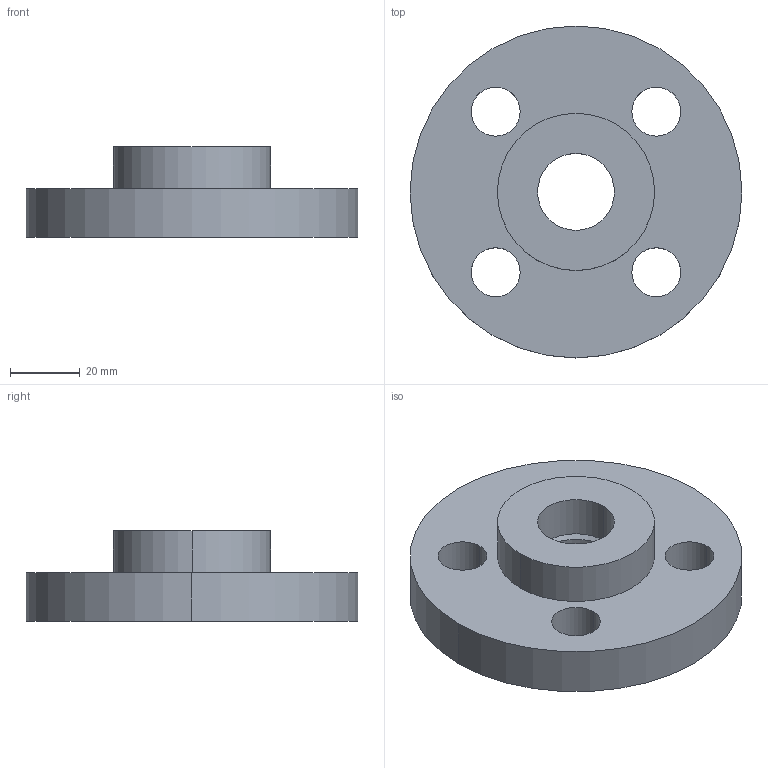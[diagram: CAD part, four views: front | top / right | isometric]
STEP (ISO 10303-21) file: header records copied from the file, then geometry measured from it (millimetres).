
FILE_DESCRIPTION (( 'STEP AP214' ), '1' );
FILE_NAME ('PN40 DN15 Type 02 in 32 - (Type A Face).STEP', '2018-12-29T15:10:35', ( '' ), ( '' ), 'SwSTEP 2.0', 'SolidWorks 2019', '' );
FILE_SCHEMA (( 'AUTOMOTIVE_DESIGN' ));
Length unit declared in the file: millimetre
Products named in the file (1): PN40 DN15 Type 02 in 32 - (Type A Face)
Bounding box: 95 x 95 x 26 mm (x, y, z)
Volume: 97884.2 mm3; surface area: 24524.2 mm2
Topology: 2 solids, 2 shells, 22 faces, 52 edges, 34 vertices
Faces by surface type: cylinder 16, plane 4, cone 2
Entity records: 721 total; most frequent: DIRECTION 132, CARTESIAN_POINT 109, ORIENTED_EDGE 104, AXIS2_PLACEMENT_3D 57, EDGE_CURVE 52, CIRCLE 34, VERTEX_POINT 34, EDGE_LOOP 34
